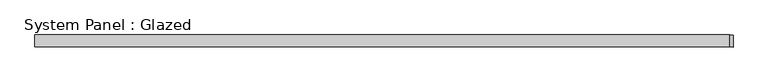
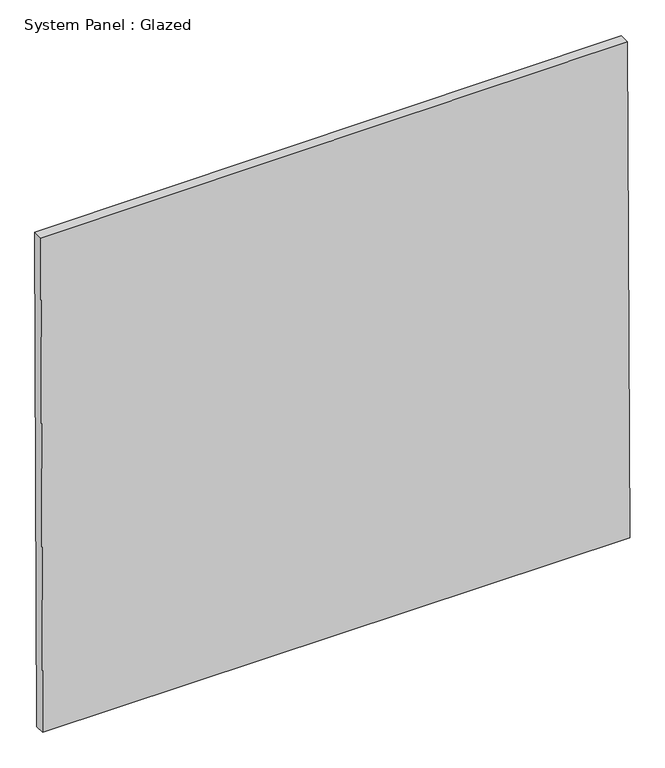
"""IFC4 building model written with IfcOpenShell, lengths in millimetres: plate geometry, System Panel : Glazed."""

from ifc_helpers import new_model, si_unit, frame, origin, place, context, project, spatial, polyline, outline, extrude, source, transform, mapped, element, save


def system_panel_glazed_3333aa39(model_context):
    return source(origin(), model_context, "Body", "SweptSolid", [
        extrude(outline(polyline([(0.0, -718.4964211), (0.0, 723.101989), (1289.5326334, 716.636411), (1283.337446, -723.101989), (0.0, -718.4964211)])), frame((0.0, -49.5, 0.0), z_axis=(0.0, 1.0, 0.0), x_axis=(0.0, 0.0, 1.0)), (0.0, 0.0, 1.0), 25.0),
    ])


if __name__ == "__main__":
    model = new_model("IFC4")
    model_context = context("Model", 3, world=origin())
    ifc_project = project(units=[si_unit("LENGTHUNIT", "METRE", prefix="MILLI")], contexts=[model_context])
    site = spatial("IfcSite", under=ifc_project)
    building = spatial("IfcBuilding", under=site)
    placement = place(None, origin())
    system_panel_glazed_shape = system_panel_glazed_3333aa39(model_context)
    element("IfcPlate", 1, ObjectType="System Panel : Glazed", at=placement, inside=building, context=model_context, shape_type="MappedRepresentation", body=[
        mapped(system_panel_glazed_shape, transform((0.0, 0.0, 0.0), x_axis=(1.0, 0.0, 0.0), y_axis=(0.0, 1.0, 0.0), z_axis=(0.0, 0.0, 1.0))),
    ])
    save(model, "model.ifc")
